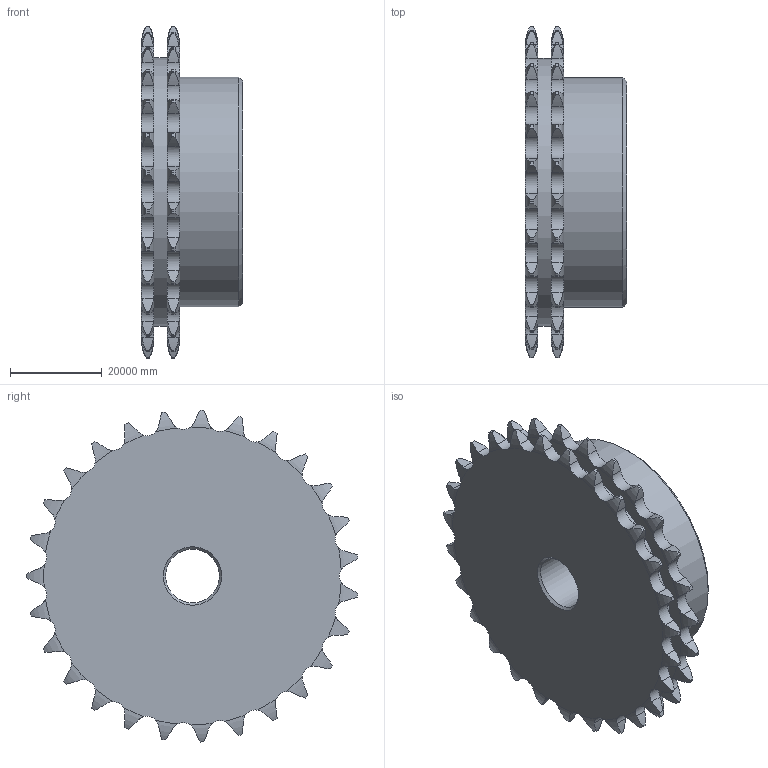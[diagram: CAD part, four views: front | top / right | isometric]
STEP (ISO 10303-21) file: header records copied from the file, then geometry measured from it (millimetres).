
FILE_DESCRIPTION(/* description */ (''),/* implementation_level */ '2;1');
FILE_NAME(/* name */ 'C:\Users\stagistaCAD\Desktop\10208027.stp',/* time_stamp */ '2018-06-13T08:59:35+02:00',/* author */ ('stagistacad'),/* organization */ (''),/* preprocessor_version */ 'ST-DEVELOPER v15.6',/* originating_system */ 'Autodesk Inventor 2015',/* authorisation */ '');
FILE_SCHEMA (('AUTOMOTIVE_DESIGN { 1 0 10303 214 3 1 1 }'));
Length unit declared in the file: millimetre
Products named in the file (1): 10208027
Bounding box: 22000 x 72094.51 x 72230.98 mm (x, y, z)
Volume: 51064865309229.2 mm3; surface area: 13431876346.1 mm2
Topology: 1 solids, 1 shells, 359 faces, 1059 edges, 705 vertices
Faces by surface type: cylinder 243, torus 108, plane 5, cone 3
Full cylindrical faces by diameter (mm): 11700 x1, 50000 x1, 58310 x1
Entity records: 14540 total; most frequent: CARTESIAN_POINT 5746, ORIENTED_EDGE 2106, DIRECTION 1514, EDGE_CURVE 1053, VERTEX_POINT 705, AXIS2_PLACEMENT_3D 637, B_SPLINE_CURVE_WITH_KNOTS 536, EDGE_LOOP 370
